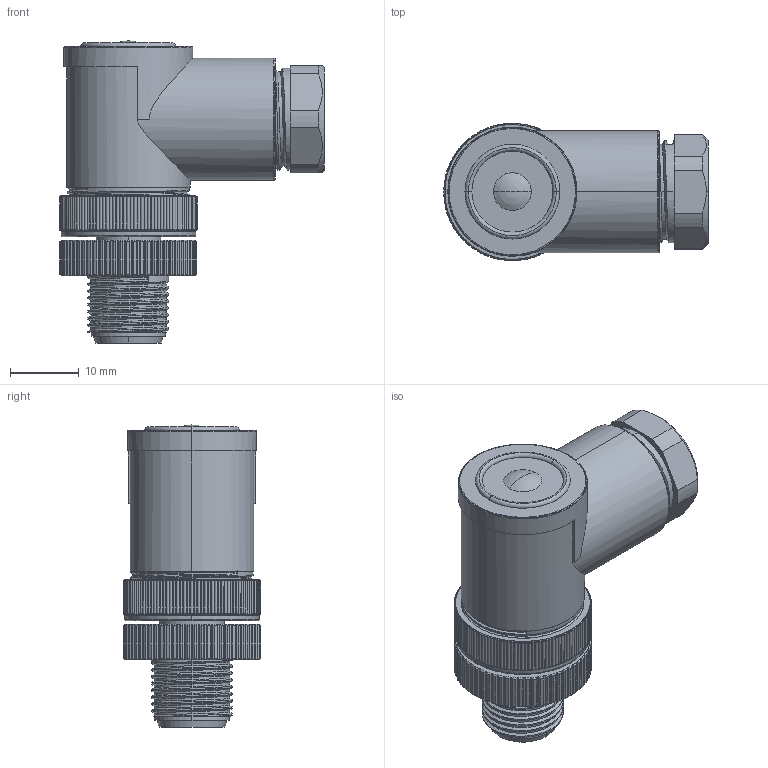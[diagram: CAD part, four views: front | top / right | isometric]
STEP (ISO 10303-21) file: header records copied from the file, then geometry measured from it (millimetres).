
FILE_DESCRIPTION((''),'2;1');
FILE_NAME('XC-M12-RWK-PG9','2025-06-21T16:12:12',('lyj'),(''),'CREO PARAMETRIC BY PTC INC, 2019010','CREO PARAMETRIC BY PTC INC, 2019010','');
FILE_SCHEMA(('CONFIG_CONTROL_DESIGN'));
Length unit declared in the file: millimetre
Products named in the file (1): XC-M12-RWK-PG9
Bounding box: 38.54 x 20 x 44 mm (x, y, z)
Volume: 9067.3 mm3; surface area: 13031.4 mm2
Topology: 1 solids, 16 shells, 1583 faces, 4310 edges, 2772 vertices
Faces by surface type: cylinder 642, cone 423, plane 383, bspline 59, torus 34, extrusion 28, sphere 14
Entity records: 82390 total; most frequent: CARTESIAN_POINT 44322, ORIENTED_EDGE 8592, DIRECTION 7192, EDGE_CURVE 4296, AXIS2_PLACEMENT_3D 2882, VERTEX_POINT 2772, EDGE_LOOP 1670, FACE_OUTER_BOUND 1583
